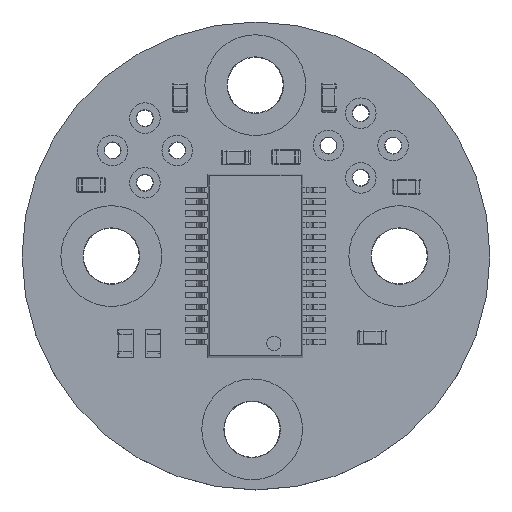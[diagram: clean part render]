
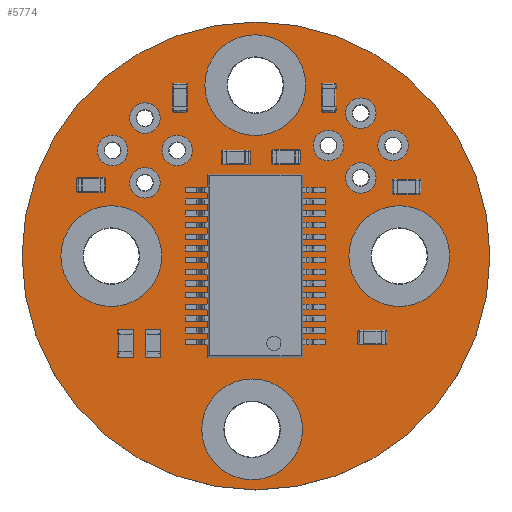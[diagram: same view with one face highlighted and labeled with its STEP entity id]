
A CAD part, top view. The second image highlights one B-rep face of the part: STEP entity #5774.
In plain terms, the highlighted planar face has unit normal (0, 0, 1).
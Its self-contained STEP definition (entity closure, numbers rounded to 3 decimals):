
#413=FACE_BOUND('',#1148,.T.);
#414=FACE_BOUND('',#1149,.T.);
#415=FACE_BOUND('',#1150,.T.);
#416=FACE_BOUND('',#1151,.T.);
#417=FACE_BOUND('',#1152,.T.);
#418=FACE_BOUND('',#1153,.T.);
#419=FACE_BOUND('',#1154,.T.);
#420=FACE_BOUND('',#1155,.T.);
#421=FACE_BOUND('',#1156,.T.);
#422=FACE_BOUND('',#1157,.T.);
#423=FACE_BOUND('',#1158,.T.);
#424=FACE_BOUND('',#1159,.T.);
#499=PLANE('',#6324);
#725=FACE_OUTER_BOUND('',#1147,.T.);
#1147=EDGE_LOOP('',(#4202));
#1148=EDGE_LOOP('',(#4203));
#1149=EDGE_LOOP('',(#4204));
#1150=EDGE_LOOP('',(#4205));
#1151=EDGE_LOOP('',(#4206));
#1152=EDGE_LOOP('',(#4207));
#1153=EDGE_LOOP('',(#4208));
#1154=EDGE_LOOP('',(#4209));
#1155=EDGE_LOOP('',(#4210));
#1156=EDGE_LOOP('',(#4211));
#1157=EDGE_LOOP('',(#4212));
#1158=EDGE_LOOP('',(#4213));
#1159=EDGE_LOOP('',(#4214));
#2490=CIRCLE('',#6273,0.85);
#2492=CIRCLE('',#6277,0.85);
#2494=CIRCLE('',#6281,2.8);
#2496=CIRCLE('',#6285,2.8);
#2498=CIRCLE('',#6289,0.85);
#2500=CIRCLE('',#6293,0.85);
#2502=CIRCLE('',#6297,0.85);
#2504=CIRCLE('',#6301,0.85);
#2506=CIRCLE('',#6305,2.8);
#2508=CIRCLE('',#6309,0.85);
#2510=CIRCLE('',#6313,0.85);
#2512=CIRCLE('',#6317,2.8);
#2515=CIRCLE('',#6322,13.);
#2774=VERTEX_POINT('',#8999);
#2776=VERTEX_POINT('',#9006);
#2778=VERTEX_POINT('',#9013);
#2780=VERTEX_POINT('',#9020);
#2782=VERTEX_POINT('',#9027);
#2784=VERTEX_POINT('',#9034);
#2786=VERTEX_POINT('',#9041);
#2788=VERTEX_POINT('',#9048);
#2790=VERTEX_POINT('',#9055);
#2792=VERTEX_POINT('',#9062);
#2794=VERTEX_POINT('',#9069);
#2796=VERTEX_POINT('',#9076);
#2799=VERTEX_POINT('',#9085);
#3284=EDGE_CURVE('',#2774,#2774,#2490,.T.);
#3287=EDGE_CURVE('',#2776,#2776,#2492,.T.);
#3290=EDGE_CURVE('',#2778,#2778,#2494,.T.);
#3293=EDGE_CURVE('',#2780,#2780,#2496,.T.);
#3296=EDGE_CURVE('',#2782,#2782,#2498,.T.);
#3299=EDGE_CURVE('',#2784,#2784,#2500,.T.);
#3302=EDGE_CURVE('',#2786,#2786,#2502,.T.);
#3305=EDGE_CURVE('',#2788,#2788,#2504,.T.);
#3308=EDGE_CURVE('',#2790,#2790,#2506,.T.);
#3311=EDGE_CURVE('',#2792,#2792,#2508,.T.);
#3314=EDGE_CURVE('',#2794,#2794,#2510,.T.);
#3317=EDGE_CURVE('',#2796,#2796,#2512,.T.);
#3322=EDGE_CURVE('',#2799,#2799,#2515,.T.);
#4202=ORIENTED_EDGE('',*,*,#3322,.T.);
#4203=ORIENTED_EDGE('',*,*,#3284,.T.);
#4204=ORIENTED_EDGE('',*,*,#3287,.T.);
#4205=ORIENTED_EDGE('',*,*,#3290,.T.);
#4206=ORIENTED_EDGE('',*,*,#3293,.T.);
#4207=ORIENTED_EDGE('',*,*,#3296,.T.);
#4208=ORIENTED_EDGE('',*,*,#3299,.T.);
#4209=ORIENTED_EDGE('',*,*,#3302,.T.);
#4210=ORIENTED_EDGE('',*,*,#3305,.T.);
#4211=ORIENTED_EDGE('',*,*,#3308,.T.);
#4212=ORIENTED_EDGE('',*,*,#3311,.T.);
#4213=ORIENTED_EDGE('',*,*,#3314,.T.);
#4214=ORIENTED_EDGE('',*,*,#3317,.T.);
#5774=ADVANCED_FACE('',(#725,#413,#414,#415,#416,#417,#418,#419,#420,#421,
#422,#423,#424),#499,.F.);
#6273=AXIS2_PLACEMENT_3D('',#9000,#7117,#7118);
#6277=AXIS2_PLACEMENT_3D('',#9007,#7126,#7127);
#6281=AXIS2_PLACEMENT_3D('',#9014,#7135,#7136);
#6285=AXIS2_PLACEMENT_3D('',#9021,#7144,#7145);
#6289=AXIS2_PLACEMENT_3D('',#9028,#7153,#7154);
#6293=AXIS2_PLACEMENT_3D('',#9035,#7162,#7163);
#6297=AXIS2_PLACEMENT_3D('',#9042,#7171,#7172);
#6301=AXIS2_PLACEMENT_3D('',#9049,#7180,#7181);
#6305=AXIS2_PLACEMENT_3D('',#9056,#7189,#7190);
#6309=AXIS2_PLACEMENT_3D('',#9063,#7198,#7199);
#6313=AXIS2_PLACEMENT_3D('',#9070,#7207,#7208);
#6317=AXIS2_PLACEMENT_3D('',#9077,#7216,#7217);
#6322=AXIS2_PLACEMENT_3D('',#9087,#7228,#7229);
#6324=AXIS2_PLACEMENT_3D('',#9089,#7232,#7233);
#7117=DIRECTION('center_axis',(0.,0.,-1.));
#7118=DIRECTION('ref_axis',(1.,0.,0.));
#7126=DIRECTION('center_axis',(0.,0.,-1.));
#7127=DIRECTION('ref_axis',(1.,0.,0.));
#7135=DIRECTION('center_axis',(0.,0.,-1.));
#7136=DIRECTION('ref_axis',(1.,0.,0.));
#7144=DIRECTION('center_axis',(0.,0.,-1.));
#7145=DIRECTION('ref_axis',(1.,0.,0.));
#7153=DIRECTION('center_axis',(0.,0.,-1.));
#7154=DIRECTION('ref_axis',(1.,0.,0.));
#7162=DIRECTION('center_axis',(0.,0.,-1.));
#7163=DIRECTION('ref_axis',(1.,0.,0.));
#7171=DIRECTION('center_axis',(0.,0.,-1.));
#7172=DIRECTION('ref_axis',(1.,0.,0.));
#7180=DIRECTION('center_axis',(0.,0.,-1.));
#7181=DIRECTION('ref_axis',(1.,0.,0.));
#7189=DIRECTION('center_axis',(0.,0.,-1.));
#7190=DIRECTION('ref_axis',(1.,0.,0.));
#7198=DIRECTION('center_axis',(0.,0.,-1.));
#7199=DIRECTION('ref_axis',(1.,0.,0.));
#7207=DIRECTION('center_axis',(0.,0.,-1.));
#7208=DIRECTION('ref_axis',(1.,0.,0.));
#7216=DIRECTION('center_axis',(0.,0.,-1.));
#7217=DIRECTION('ref_axis',(1.,0.,0.));
#7228=DIRECTION('center_axis',(0.,0.,1.));
#7229=DIRECTION('ref_axis',(1.,0.,0.));
#7232=DIRECTION('center_axis',(0.,0.,-1.));
#7233=DIRECTION('ref_axis',(-1.,0.,0.));
#8999=CARTESIAN_POINT('',(-8.778,5.87,0.));
#9000=CARTESIAN_POINT('Origin',(-7.928,5.87,0.));
#9006=CARTESIAN_POINT('',(5.01,7.938,0.));
#9007=CARTESIAN_POINT('Origin',(5.86,7.938,0.));
#9013=CARTESIAN_POINT('',(-2.8,9.5,0.));
#9014=CARTESIAN_POINT('Origin',(0.,9.5,0.));
#9020=CARTESIAN_POINT('',(5.2,0.,0.));
#9021=CARTESIAN_POINT('Origin',(8.,0.,0.));
#9027=CARTESIAN_POINT('',(6.806,6.142,0.));
#9028=CARTESIAN_POINT('Origin',(7.656,6.142,0.));
#9034=CARTESIAN_POINT('',(-6.982,4.074,0.));
#9035=CARTESIAN_POINT('Origin',(-6.132,4.074,0.));
#9041=CARTESIAN_POINT('',(-6.982,7.666,0.));
#9042=CARTESIAN_POINT('Origin',(-6.132,7.666,0.));
#9048=CARTESIAN_POINT('',(3.214,6.142,0.));
#9049=CARTESIAN_POINT('Origin',(4.064,6.142,0.));
#9055=CARTESIAN_POINT('',(-10.8,0.,0.));
#9056=CARTESIAN_POINT('Origin',(-8.,0.,0.));
#9062=CARTESIAN_POINT('',(5.01,4.346,0.));
#9063=CARTESIAN_POINT('Origin',(5.86,4.346,0.));
#9069=CARTESIAN_POINT('',(-5.186,5.87,0.));
#9070=CARTESIAN_POINT('Origin',(-4.336,5.87,0.));
#9076=CARTESIAN_POINT('',(-2.975,-9.625,0.));
#9077=CARTESIAN_POINT('Origin',(-0.175,-9.625,0.));
#9085=CARTESIAN_POINT('',(-12.96,0.007,0.));
#9087=CARTESIAN_POINT('Origin',(0.04,0.007,0.));
#9089=CARTESIAN_POINT('Origin',(13.04,0.007,0.));
